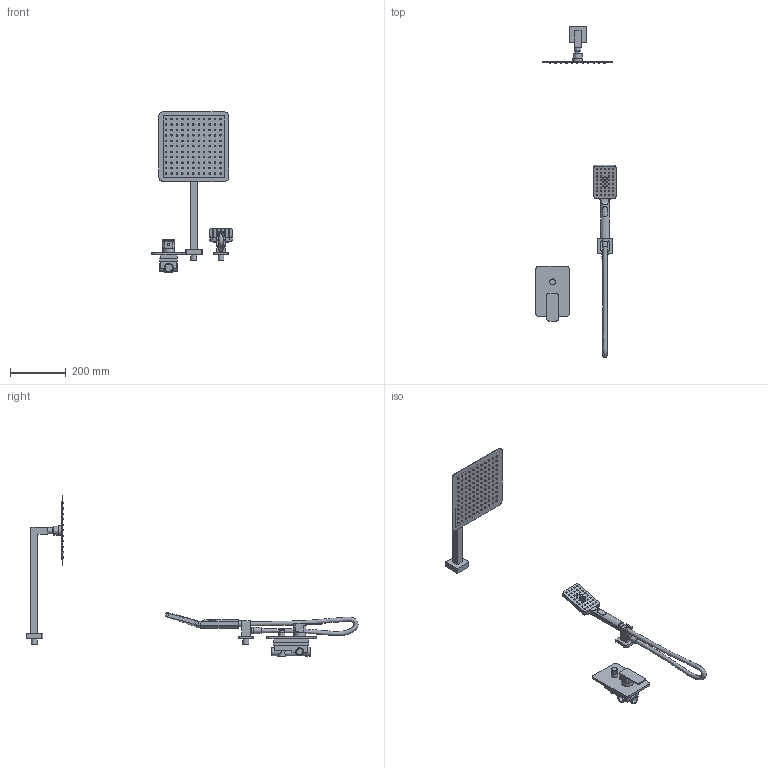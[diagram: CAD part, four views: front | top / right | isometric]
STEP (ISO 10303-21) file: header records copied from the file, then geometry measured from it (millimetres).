
FILE_DESCRIPTION(/* description */ ('CARRÉ BLACK Zestaw natryskowy podtynkowy, black mat','CAx-IF Rec.Pracs.---Representation and Presentation of Product Manufacturing Information (PMI)---4.0---2014-10-13'),/* implementation_level */ '2;1');
FILE_NAME(/* name */ 'C:\Nextcloud\02_biblioteki_cad\Valvex\Projekt\PROJECTS\ETAP 1\ponowny eksport\2448850\2448850.stp',/* time_stamp */ '2022-12-05T14:11:23+01:00',/* author */ ('Alan Batog'),/* organization */ (''),/* preprocessor_version */ 'ST-DEVELOPER v18.1',/* originating_system */ 'Autodesk Inventor 2022',/* authorisation */ '');
FILE_SCHEMA (('AP242_MANAGED_MODEL_BASED_3D_ENGINEERING_MIM_LF { 1 0 10303 442 1 1 4 }'));
Length unit declared in the file: millimetre
Products named in the file (9): 2448850; 2449980_przylacze_katowe; 2449980_waz; 2455750_sluchawka_2; 2449980_deszczownica; 2455570; 2454980; 2448850_dysze_deszczownica_1; 2455850_dysze_sluchawka
Assembly tree (8 placements, depth 2):
  2448850
    2449980_przylacze_katowe
    2449980_waz
    2455750_sluchawka_2
    2449980_deszczownica
    2455570
    2454980
    2448850_dysze_deszczownica_1
    2455850_dysze_sluchawka
Bounding box: 287.5 x 1188.88 x 574.5 mm (x, y, z)
Volume: 1791515.6 mm3; surface area: 424774 mm2
Topology: 296 solids, 296 shells, 1184 faces, 1668 edges, 1106 vertices
Faces by surface type: plane 838, cone 255, cylinder 71, bspline 15, torus 4, sphere 1
Full cylindrical faces by diameter (mm): 6 x2, 9 x1, 16.5 x1, 18 x3, 19 x1, 21 x11, 23 x2, 26 x1, 28 x4, 31 x1, 32 x1, 34 x1, 42 x1
Entity records: 27763 total; most frequent: CARTESIAN_POINT 5857, DIRECTION 4866, ORIENTED_EDGE 3334, AXIS2_PLACEMENT_3D 1951, EDGE_CURVE 1667, EDGE_LOOP 1219, FACE_OUTER_BOUND 1184, ADVANCED_FACE 1184
